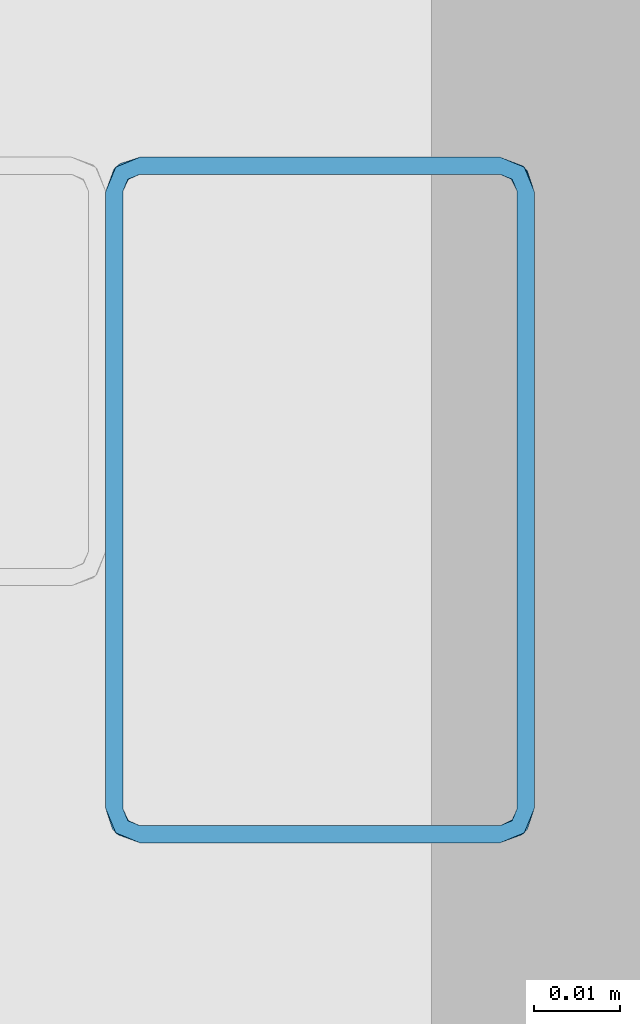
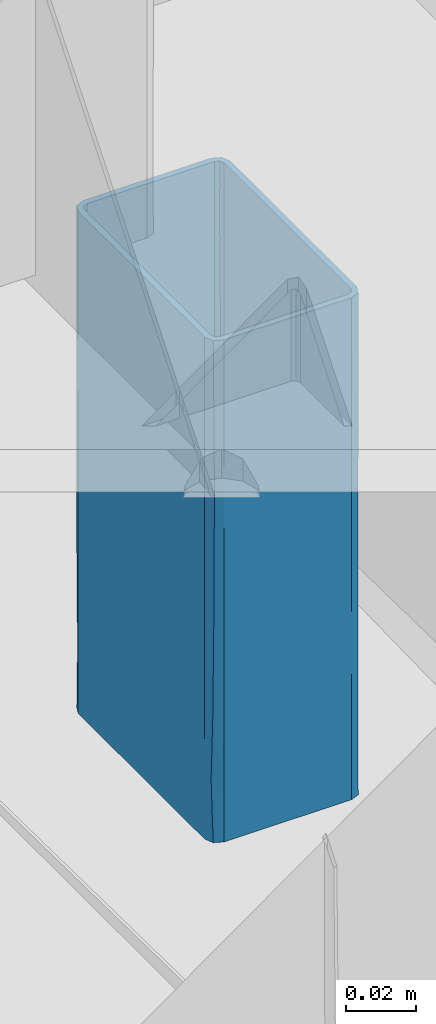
# One storey, part 137 of 186: 1 beam.
"""IFC4X3_ADD2 building model written with IfcOpenShell, lengths in millimetres."""

from ifc_helpers import new_model, si_unit, direction, frame, origin_with_axes, place, context, subcontext, project, spatial, polygons, element, save


model = new_model("IFC4X3_ADD2")

# Units and contexts
model_context = context("Model", 3, precision=1e-05, world=origin_with_axes(), true_north=direction((0.0, 1.0)))
body_context = subcontext(model_context, "Body", "Model", "MODEL_VIEW")
ifc_project = project(units=[si_unit("LENGTHUNIT", "METRE", prefix="MILLI"), si_unit("AREAUNIT", "SQUARE_METRE"), si_unit("VOLUMEUNIT", "CUBIC_METRE"), si_unit("PLANEANGLEUNIT", "RADIAN"), si_unit("TIMEUNIT", "SECOND"), si_unit("MASSUNIT", "GRAM")], contexts=[model_context])

# Site, building, storey
site_placement = place(None, origin_with_axes())
site = spatial("IfcSite", under=ifc_project, at=site_placement, Name="Site", CompositionType="ELEMENT")
building_placement = place(site_placement, origin_with_axes())
building = spatial("IfcBuilding", under=site, at=building_placement, Name="IFC Building Story")
storey_placement = place(building_placement, frame((0.0, 0.0, 4370.0), z_axis=(0.0, 0.0, 1.0), x_axis=(1.0, 0.0, 0.0)))
storey = spatial("IfcBuildingStorey", under=building, at=storey_placement, Name="ETAGE 10 (1)", Elevation=4370.0)

# Beam
beam_placement = place(storey_placement, frame((0.0, 0.0, -4370.0), z_axis=(0.0, 0.0, 1.0), x_axis=(1.0, 0.0, 0.0)))
element("IfcBeam", 1, at=beam_placement, inside=storey, Name="PS9", ObjectType="K50*80*2", context=body_context, shape_type="Tessellation", body=[
    polygons([(33393.18769887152, -14300.99999267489, 7529.59861931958), (33391.18769887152, -14300.99999267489, 7529.59861931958), (33393.77348530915, -14302.41420623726, 7529.59861931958), (33391.18769887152, -14228.99999267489, 7529.59861931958), (33393.18769887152, -14228.99999267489, 7529.59861931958), (33393.77348530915, -14227.58577911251, 7529.59861931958), (33392.35927174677, -14226.17156555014, 7529.59861931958), (33395.18769887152, -14224.99999267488, 7529.59861931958), (33395.18769887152, -14226.99999267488, 7529.59861931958), (33437.18769887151, -14226.99999267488, 7529.59861931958), (33437.18769887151, -14224.99999267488, 7529.59861931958), (33438.60191243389, -14227.58577911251, 7529.59861931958), (33440.01612599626, -14226.17156555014, 7529.59861931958), (33441.18769887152, -14228.99999267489, 7529.59861931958), (33439.18769887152, -14228.99999267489, 7529.59861931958), (33439.18769887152, -14300.99999267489, 7529.59861931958), (33441.18769887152, -14300.99999267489, 7529.59861931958), (33438.60191243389, -14302.41420623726, 7529.59861931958), (33440.01612599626, -14303.82841979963, 7529.59861931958), (33437.18769887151, -14304.99999267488, 7529.59861931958), (33437.18769887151, -14302.99999267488, 7529.59861931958), (33395.18769887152, -14304.99999267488, 7529.59861931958), (33395.18769887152, -14302.99999267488, 7529.59861931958), (33392.35927174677, -14303.82841979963, 7529.59861931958), (33439.18769887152, -14300.99999267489, 7355.21861931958), (33441.18769887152, -14300.99999267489, 7355.21861931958), (33438.60191243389, -14302.41420623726, 7355.21861931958), (33441.18769887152, -14228.99999267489, 7355.21861931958), (33439.18769887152, -14228.99999267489, 7355.21861931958), (33438.60191243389, -14227.58577911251, 7355.21861931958), (33440.01612599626, -14226.17156555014, 7355.21861931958), (33437.18769887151, -14224.99999267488, 7355.21861931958), (33437.18769887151, -14226.99999267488, 7355.21861931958), (33395.18769887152, -14226.99999267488, 7355.21861931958), (33395.18769887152, -14224.99999267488, 7355.21861931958), (33393.77348530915, -14227.58577911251, 7355.21861931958), (33392.35927174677, -14226.17156555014, 7355.21861931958), (33391.18769887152, -14228.99999267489, 7355.21861931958), (33393.18769887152, -14228.99999267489, 7355.21861931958), (33393.18769887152, -14300.99999267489, 7355.21861931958), (33391.18769887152, -14300.99999267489, 7355.21861931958), (33393.77348530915, -14302.41420623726, 7355.21861931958), (33392.35927174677, -14303.82841979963, 7355.21861931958), (33395.18769887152, -14304.99999267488, 7355.21861931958), (33395.18769887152, -14302.99999267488, 7355.21861931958), (33437.18769887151, -14304.99999267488, 7355.21861931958), (33437.18769887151, -14302.99999267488, 7355.21861931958), (33440.01612599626, -14303.82841979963, 7355.21861931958), (33391.18769887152, -14228.99999267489, 7512.14009673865), (33391.18769887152, -14228.99999267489, 7486.003617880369), (33391.18769887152, -14228.99999267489, 7464.206120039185), (33391.18769887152, -14228.99999267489, 7442.408619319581), (33391.18769887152, -14228.99999267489, 7420.611118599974), (33391.18769887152, -14228.99999267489, 7398.813620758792), (33391.18769887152, -14228.99999267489, 7372.677141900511), (33391.18769887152, -14300.99999267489, 7390.135664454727), (33391.18769887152, -14300.99999267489, 7407.491574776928), (33391.18769887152, -14300.99999267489, 7433.628051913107), (33391.18769887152, -14300.99999267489, 7459.764529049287), (33391.18769887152, -14300.99999267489, 7477.223052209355), (33391.18769887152, -14300.99999267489, 7494.681574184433), (33392.27682427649, -14303.74349574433, 7398.813621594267), (33395.18769887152, -14304.99999267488, 7420.611119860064), (33392.48911275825, -14303.95255647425, 7431.509871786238), (33395.18769887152, -14304.99999267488, 7372.677140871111), (33391.94732121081, -14303.34519045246, 7376.936876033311), (33392.53256876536, -14303.99169522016, 7499.071858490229), (33395.18769887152, -14304.99999267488, 7442.408619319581), (33395.18769887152, -14304.99999267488, 7512.14009776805), (33392.55784567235, -14304.01393895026, 7456.068339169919), (33395.18769887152, -14304.99999267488, 7398.813618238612), (33392.62462266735, -14304.07092744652, 7477.57424630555), (33395.18769887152, -14304.99999267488, 7486.00362040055), (33395.18769887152, -14304.99999267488, 7464.206118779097), (33437.18769887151, -14304.99999267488, 7372.677142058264), (33437.18769887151, -14304.99999267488, 7398.813619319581), (33437.18769887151, -14304.99999267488, 7420.611119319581), (33437.18769887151, -14304.99999267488, 7442.408619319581), (33437.18769887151, -14304.99999267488, 7464.20611931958), (33437.18769887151, -14304.99999267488, 7486.00361931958), (33437.18769887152, -14304.99999267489, 7512.140096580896), (33441.18769887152, -14300.99999267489, 7390.135665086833), (33439.84282889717, -14303.9916952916, 7385.745384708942), (33440.09857345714, -14303.7434957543, 7486.00362096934), (33439.88628500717, -14303.95255645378, 7453.307371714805), (33441.18769887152, -14300.99999267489, 7477.325664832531), (33441.18769887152, -14300.99999267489, 7494.681573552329), (33440.42807649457, -14303.34519050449, 7507.880364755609), (33439.81755215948, -14304.01393887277, 7428.748906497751), (33441.18769887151, -14300.99999267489, 7425.052710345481), (33441.18769887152, -14300.99999267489, 7451.189187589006), (33439.7507753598, -14304.07092720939, 7407.242998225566), (33441.18769887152, -14300.99999267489, 7407.594187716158), (33441.18769887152, -14228.99999267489, 7390.135664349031), (33441.18769887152, -14228.99999267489, 7416.272141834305), (33441.18769887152, -14228.99999267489, 7442.408619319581), (33441.18769887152, -14228.99999267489, 7464.206119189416), (33441.18769887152, -14228.99999267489, 7486.003619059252), (33441.18769887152, -14228.99999267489, 7512.140096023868), (33440.17940139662, -14226.344862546, 7499.071859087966), (33440.03562467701, -14226.19119958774, 7472.548605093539), (33437.18769887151, -14224.99999267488, 7494.681574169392), (33440.0161261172, -14226.17156567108, 7398.813623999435), (33440.41784628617, -14226.64072421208, 7377.016122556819), (33439.8417820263, -14226.00736128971, 7446.696292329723), (33439.91410073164, -14226.07309450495, 7422.749377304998), (33437.18769887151, -14224.99999267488, 7433.628050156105), (33437.18769887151, -14224.99999267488, 7390.135664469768), (33437.18769887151, -14224.99999267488, 7407.4915727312), (33437.18769887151, -14224.99999267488, 7459.764527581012), (33395.18769887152, -14224.99999267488, 7390.135665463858), (33395.18769887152, -14224.99999267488, 7407.491574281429), (33395.18769887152, -14224.99999267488, 7433.628051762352), (33395.18769887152, -14224.99999267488, 7459.764529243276), (33395.18769887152, -14224.99999267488, 7477.223051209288), (33395.18769887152, -14224.99999267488, 7494.681574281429), (33392.44419583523, -14226.08911804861, 7398.813622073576), (33392.2351350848, -14226.30140654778, 7431.509872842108), (33392.84250110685, -14225.75961500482, 7376.93687648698), (33392.19599633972, -14226.34486255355, 7499.071858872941), (33392.17375261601, -14226.37013945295, 7456.068339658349), (33392.11676412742, -14226.43691643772, 7477.574246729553), (33395.18769887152, -14226.99999267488, 7480.218460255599), (33393.77348535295, -14227.5857790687, 7486.390980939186), (33393.77348534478, -14227.58577907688, 7473.185613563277), (33393.761337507, -14227.5980321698, 7386.677759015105), (33393.69169343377, -14227.67260134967, 7373.73618015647), (33395.18769887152, -14226.99999267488, 7374.123539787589), (33393.18769887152, -14228.99999267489, 7420.611119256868), (33393.18769887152, -14228.99999267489, 7409.712369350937), (33393.73129899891, -14227.62926315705, 7415.161746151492), (33393.75107338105, -14227.6085519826, 7449.355862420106), (33393.18769887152, -14228.99999267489, 7442.408619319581), (33393.90134918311, -14227.46855397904, 7438.435819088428), (33395.18769887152, -14226.99999267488, 7455.528380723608), (33393.84725054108, -14227.51567523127, 7461.21910020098), (33395.18769887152, -14226.99999267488, 7393.028460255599), (33393.18769887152, -14228.99999267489, 7367.563659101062), (33393.18769887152, -14228.99999267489, 7517.253579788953), (33393.18769887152, -14228.99999267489, 7492.56350022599), (33393.18769887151, -14228.99999267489, 7480.218460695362), (33395.18769887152, -14226.99999267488, 7492.563500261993), (33393.82148151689, -14227.53935920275, 7498.73602044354), (33393.84133664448, -14227.5210373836, 7398.499702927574), (33393.18769887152, -14228.99999267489, 7398.813619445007), (33395.18769887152, -14226.99999267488, 7517.253579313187), (33393.77348533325, -14227.5857790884, 7511.081059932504), (33395.18769887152, -14226.99999267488, 7504.908539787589), (33393.18769887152, -14228.99999267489, 7504.908540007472), (33393.18769887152, -14228.99999267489, 7379.908698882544), (33393.18769887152, -14228.99999267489, 7461.313540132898), (33395.18769887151, -14226.99999267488, 7467.873420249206), (33395.18769887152, -14226.99999267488, 7411.933380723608), (33395.18769887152, -14226.99999267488, 7430.838301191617), (33393.68995856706, -14227.67455916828, 7427.620743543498), (33393.18769887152, -14228.99999267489, 7431.50986941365), (33395.18769887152, -14226.99999267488, 7443.183341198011), (33437.18769887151, -14226.99999267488, 7367.56365934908), (33437.18769887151, -14226.99999267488, 7377.016119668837), (33437.18769887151, -14226.99999267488, 7387.91486956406), (33437.18769887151, -14226.99999267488, 7398.813619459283), (33437.18769887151, -14226.99999267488, 7409.712369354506), (33437.18769887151, -14226.99999267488, 7420.611119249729), (33437.18769887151, -14226.99999267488, 7431.509869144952), (33437.18769887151, -14226.99999267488, 7442.408619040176), (33437.18769887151, -14226.99999267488, 7453.307368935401), (33437.18769887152, -14226.99999267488, 7464.206118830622), (33437.18769887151, -14226.99999267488, 7475.104868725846), (33437.18769887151, -14226.99999267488, 7486.003619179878), (33437.18769887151, -14226.99999267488, 7504.90853981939), (33437.18769887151, -14226.99999267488, 7517.25357984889), (33438.49895586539, -14227.48982543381, 7405.576373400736), (33438.53725077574, -14227.52394739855, 7393.364245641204), (33438.57794189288, -14227.56220814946, 7448.655924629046), (33438.68967101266, -14227.67935658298, 7461.088047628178), (33438.4073444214, -14227.41491705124, 7382.780985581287), (33439.18769887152, -14228.99999267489, 7510.693698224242), (33438.51509022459, -14227.50398726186, 7511.081060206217), (33439.18769887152, -14228.99999267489, 7367.563658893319), (33439.18769887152, -14228.99999267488, 7404.598778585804), (33439.18769887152, -14228.99999267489, 7392.253739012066), (33438.67085384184, -14227.658258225, 7423.116339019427), (33439.18769887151, -14228.99999267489, 7379.908698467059), (33438.60191241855, -14227.58577909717, 7372.289889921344), (33438.5896593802, -14227.5736313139, 7498.139482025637), (33438.61448330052, -14227.5984627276, 7436.065234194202), (33439.18769887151, -14228.99999267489, 7429.288858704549), (33439.18769887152, -14228.99999267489, 7416.943818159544), (33439.18769887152, -14228.99999267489, 7441.633898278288), (33439.18769887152, -14228.99999267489, 7491.788778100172), (33438.66517873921, -14227.65201150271, 7480.554245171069), (33439.18769887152, -14228.99999267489, 7472.8838579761), (33439.18769887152, -14228.99999267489, 7453.978937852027), (33439.18769887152, -14300.99999267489, 7367.563658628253), (33439.18769887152, -14300.99999267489, 7377.016119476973), (33439.18769887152, -14300.99999267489, 7387.9148689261), (33439.18769887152, -14300.99999267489, 7398.813618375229), (33439.18769887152, -14300.99999267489, 7409.712369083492), (33439.18769887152, -14300.99999267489, 7420.61111853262), (33439.18769887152, -14300.99999267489, 7431.509867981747), (33439.18769887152, -14300.99999267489, 7442.408618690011), (33439.18769887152, -14300.99999267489, 7453.307369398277), (33439.18769887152, -14300.99999267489, 7464.206118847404), (33439.18769887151, -14300.99999267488, 7475.104868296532), (33439.18769887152, -14300.99999267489, 7486.003619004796), (33439.18769887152, -14300.99999267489, 7504.908540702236), (33439.18769887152, -14300.99999267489, 7517.253580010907), (33438.69786612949, -14302.3112496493, 7405.576373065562), (33438.66374415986, -14302.34954456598, 7393.364245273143), (33438.62548341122, -14302.39023568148, 7448.65592429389), (33438.50833497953, -14302.50196480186, 7461.088047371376), (33438.77277449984, -14302.21963821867, 7382.780985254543), (33437.18769887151, -14302.99999267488, 7510.693698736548), (33438.68370428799, -14302.32738402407, 7511.081060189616), (33437.18769887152, -14302.99999267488, 7367.563659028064), (33437.18769887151, -14302.99999267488, 7404.598778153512), (33437.18769887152, -14302.99999267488, 7392.25373844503), (33438.52943334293, -14302.48314762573, 7423.116338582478), (33438.60191244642, -14302.41420622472, 7372.289889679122), (33438.61406023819, -14302.40195317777, 7498.139481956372), (33438.58922884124, -14302.42677708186, 7436.065233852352), (33437.18769887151, -14302.99999267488, 7379.908698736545), (33437.18769887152, -14302.99999267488, 7429.288857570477), (33437.18769887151, -14302.99999267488, 7416.943817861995), (33437.18769887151, -14302.99999267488, 7441.633897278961), (33437.18769887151, -14302.99999267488, 7491.788778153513), (33438.53568005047, -14302.4774725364, 7480.554245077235), (33437.18769887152, -14302.99999267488, 7472.883857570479), (33437.18769887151, -14302.99999267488, 7453.978936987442), (33395.18769887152, -14302.99999267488, 7367.563659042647), (33395.18769887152, -14302.99999267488, 7379.908698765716), (33395.18769887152, -14302.99999267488, 7392.253738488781), (33395.18769887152, -14302.99999267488, 7404.598778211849), (33395.18769887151, -14302.99999267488, 7416.943817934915), (33395.18769887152, -14302.99999267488, 7429.288857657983), (33395.18769887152, -14302.99999267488, 7441.633897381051), (33395.18769887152, -14302.99999267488, 7453.978937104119), (33395.18769887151, -14302.99999267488, 7472.883857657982), (33395.18769887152, -14302.99999267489, 7491.788778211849), (33395.18769887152, -14302.99999267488, 7510.693698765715), (33393.76133749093, -14302.40195316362, 7498.139482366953), (33393.69169344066, -14302.32738400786, 7511.081060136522), (33393.84725044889, -14302.48431003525, 7423.598142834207), (33393.75107328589, -14302.39143326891, 7435.461379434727), (33393.77348535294, -14302.41420628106, 7373.736182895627), (33393.77348537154, -14302.41420629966, 7386.941548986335), (33393.18769887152, -14300.99999267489, 7379.908699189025), (33393.18769887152, -14300.99999267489, 7464.20611964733), (33393.18769887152, -14300.99999267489, 7475.104869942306), (33393.73129892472, -14302.3707221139, 7469.655496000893), (33393.18769887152, -14300.99999267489, 7517.253579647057), (33393.18769887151, -14300.99999267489, 7367.563659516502), (33393.90134900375, -14302.53143122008, 7446.381423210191), (33393.84133657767, -14302.47894790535, 7486.317539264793), (33393.18769887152, -14300.99999267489, 7486.003619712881), (33393.18769887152, -14300.99999267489, 7392.253738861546), (33393.7103880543, -14302.34815911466, 7398.896110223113), (33393.18769887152, -14300.99999267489, 7504.908539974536), (33393.76900637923, -14302.40971307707, 7410.853040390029), (33393.68995852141, -14302.32542612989, 7457.196499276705), (33393.18769887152, -14300.99999267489, 7453.307369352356), (33393.18769887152, -14300.99999267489, 7442.40861958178), (33393.18769887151, -14300.99999267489, 7423.503699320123), (33393.18769887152, -14300.99999267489, 7404.598779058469)], [[[1, 2, 3]], [[2, 1, 4]], [[5, 4, 1]], [[6, 4, 5]], [[7, 4, 6]], [[6, 8, 7]], [[6, 9, 8]], [[8, 9, 10]], [[10, 11, 8]], [[10, 12, 11]], [[11, 12, 13]], [[14, 13, 12]], [[14, 12, 15]], [[14, 15, 16]], [[16, 17, 14]], [[18, 17, 16]], [[17, 18, 19]], [[18, 20, 19]], [[21, 20, 18]], [[20, 21, 22]], [[23, 22, 21]], [[3, 22, 23]], [[22, 3, 24]], [[3, 2, 24]], [[25, 26, 27]], [[26, 25, 28]], [[29, 28, 25]], [[30, 28, 29]], [[31, 28, 30]], [[30, 32, 31]], [[30, 33, 32]], [[32, 33, 34]], [[34, 35, 32]], [[34, 36, 35]], [[35, 36, 37]], [[38, 37, 36]], [[38, 36, 39]], [[38, 39, 40]], [[40, 41, 38]], [[42, 41, 40]], [[41, 42, 43]], [[42, 44, 43]], [[45, 44, 42]], [[44, 45, 46]], [[47, 46, 45]], [[27, 46, 47]], [[46, 27, 48]], [[27, 26, 48]], [[55, 38, 41]], [[55, 41, 56]], [[56, 57, 54]], [[56, 54, 55]], [[57, 58, 53]], [[57, 53, 54]], [[58, 52, 53]], [[58, 59, 51]], [[58, 51, 52]], [[60, 61, 50]], [[50, 51, 59]], [[50, 59, 60]], [[61, 49, 50]], [[61, 2, 4]], [[61, 4, 49]], [[62, 63, 64]], [[65, 62, 66]], [[2, 61, 67]], [[64, 63, 68]], [[69, 22, 24]], [[43, 44, 65]], [[62, 56, 66]], [[70, 59, 58]], [[57, 56, 62]], [[71, 63, 62, 65]], [[24, 2, 67]], [[59, 72, 61, 60]], [[41, 43, 66]], [[58, 64, 70]], [[64, 57, 62]], [[73, 69, 67]], [[64, 68, 70]], [[64, 58, 57]], [[70, 68, 74]], [[73, 67, 72]], [[41, 66, 56]], [[65, 66, 43]], [[24, 67, 69]], [[72, 59, 70]], [[72, 67, 61]], [[72, 74, 73]], [[74, 72, 70]], [[65, 44, 46]], [[65, 46, 75]], [[75, 76, 71]], [[75, 71, 65]], [[76, 77, 63]], [[76, 63, 71]], [[77, 78, 68]], [[77, 68, 63]], [[78, 79, 74]], [[78, 74, 68]], [[79, 80, 73]], [[79, 73, 74]], [[80, 81, 69]], [[80, 69, 73]], [[81, 20, 22]], [[81, 22, 69]], [[26, 82, 83]], [[80, 79, 84, 81]], [[85, 84, 79]], [[86, 87, 84]], [[85, 79, 78]], [[81, 84, 88]], [[84, 87, 88]], [[48, 26, 83]], [[89, 90, 91]], [[90, 92, 82, 93]], [[17, 19, 88]], [[91, 85, 89]], [[75, 83, 76]], [[85, 86, 84]], [[75, 46, 48]], [[19, 20, 81]], [[85, 78, 89]], [[85, 91, 86]], [[89, 78, 77]], [[76, 83, 92]], [[17, 88, 87]], [[81, 88, 19]], [[48, 83, 75]], [[92, 90, 89]], [[92, 83, 82]], [[92, 77, 76]], [[77, 92, 89]], [[82, 26, 28]], [[82, 28, 94]], [[94, 95, 93]], [[94, 93, 82]], [[95, 90, 93]], [[95, 96, 91]], [[95, 91, 90]], [[97, 98, 86]], [[97, 86, 91]], [[91, 96, 97]], [[98, 87, 86]], [[99, 14, 17]], [[99, 17, 87]], [[87, 98, 99]], [[99, 98, 100]], [[101, 102, 100]], [[103, 94, 104]], [[11, 13, 100]], [[31, 104, 28]], [[105, 106, 107]], [[108, 109, 103]], [[97, 105, 101]], [[13, 99, 100]], [[32, 108, 104]], [[101, 105, 110]], [[103, 104, 108]], [[106, 109, 107]], [[13, 14, 99]], [[110, 105, 107]], [[95, 103, 106]], [[95, 94, 103]], [[106, 96, 95]], [[102, 101, 110]], [[97, 96, 105]], [[106, 105, 96]], [[109, 106, 103]], [[101, 100, 98]], [[100, 102, 11]], [[28, 104, 94]], [[104, 31, 32]], [[101, 98, 97]], [[108, 32, 35]], [[108, 35, 111]], [[111, 112, 109]], [[111, 109, 108]], [[112, 113, 107]], [[112, 107, 109]], [[113, 114, 110]], [[113, 110, 107]], [[115, 116, 102]], [[102, 110, 114]], [[102, 114, 115]], [[116, 8, 11]], [[116, 11, 102]], [[117, 53, 118]], [[55, 117, 119]], [[8, 116, 120]], [[118, 53, 52]], [[49, 4, 7]], [[37, 38, 55]], [[117, 111, 119]], [[121, 114, 113]], [[112, 111, 117]], [[54, 53, 117, 55]], [[7, 8, 120]], [[114, 122, 116, 115]], [[35, 37, 119]], [[113, 118, 121]], [[118, 112, 117]], [[50, 49, 120]], [[118, 52, 121]], [[118, 113, 112]], [[121, 52, 51]], [[50, 120, 122]], [[35, 119, 111]], [[55, 119, 37]], [[7, 120, 49]], [[122, 114, 121]], [[122, 120, 116]], [[122, 51, 50]], [[51, 122, 121]], [[123, 124, 125]], [[126, 127, 128]], [[129, 130, 131]], [[132, 133, 134]], [[132, 135, 136]], [[126, 128, 137]], [[138, 39, 36]], [[6, 5, 139]], [[36, 127, 138]], [[125, 124, 140, 141]], [[142, 143, 124]], [[144, 145, 126]], [[142, 124, 123]], [[146, 147, 148]], [[140, 143, 149]], [[36, 34, 128]], [[146, 9, 6]], [[138, 127, 150]], [[147, 6, 139]], [[6, 147, 146]], [[143, 147, 149]], [[143, 142, 148]], [[149, 147, 139]], [[132, 151, 133]], [[152, 123, 125]], [[125, 141, 151]], [[126, 150, 127]], [[128, 127, 36]], [[126, 145, 150]], [[131, 153, 154]], [[124, 143, 140]], [[147, 143, 148]], [[130, 145, 144]], [[135, 152, 136]], [[144, 126, 137]], [[155, 131, 154]], [[144, 137, 153]], [[155, 129, 131]], [[144, 131, 130]], [[153, 131, 144]], [[156, 129, 155]], [[132, 134, 157]], [[135, 132, 157]], [[154, 134, 155]], [[151, 132, 136]], [[136, 125, 151]], [[125, 136, 152]], [[157, 134, 154]], [[133, 156, 134]], [[156, 155, 134]], [[158, 159, 128]], [[128, 34, 33]], [[128, 33, 158]], [[159, 160, 137]], [[159, 137, 128]], [[161, 162, 153]], [[161, 153, 137]], [[137, 160, 161]], [[163, 164, 154]], [[163, 154, 153]], [[153, 162, 163]], [[164, 165, 157]], [[164, 157, 154]], [[165, 166, 135]], [[165, 135, 157]], [[166, 167, 152]], [[166, 152, 135]], [[167, 168, 123]], [[167, 123, 152]], [[168, 169, 142]], [[168, 142, 123]], [[169, 170, 148]], [[169, 148, 142]], [[170, 171, 146]], [[170, 146, 148]], [[171, 10, 9]], [[171, 9, 146]], [[172, 161, 173]], [[166, 174, 175]], [[160, 159, 176]], [[177, 12, 178]], [[15, 12, 177]], [[30, 29, 179]], [[180, 173, 181]], [[172, 182, 162]], [[179, 183, 184]], [[170, 185, 178]], [[165, 186, 174]], [[170, 178, 171]], [[184, 159, 158]], [[158, 33, 30]], [[12, 10, 171]], [[178, 185, 177]], [[184, 183, 176]], [[30, 184, 158]], [[179, 184, 30]], [[160, 176, 173]], [[160, 173, 161]], [[180, 172, 173]], [[183, 181, 176]], [[187, 186, 182]], [[163, 162, 182, 164]], [[188, 182, 172]], [[187, 182, 188]], [[172, 180, 188]], [[186, 164, 182]], [[181, 173, 176]], [[186, 189, 174]], [[171, 178, 12]], [[190, 177, 185]], [[190, 185, 191]], [[185, 170, 169]], [[167, 166, 175, 168]], [[168, 191, 169]], [[191, 175, 192]], [[175, 174, 193]], [[175, 193, 192]], [[175, 191, 168]], [[169, 191, 185]], [[191, 192, 190]], [[193, 174, 189]], [[186, 187, 189]], [[184, 176, 159]], [[162, 161, 172]], [[166, 165, 174]], [[186, 165, 164]], [[179, 29, 25]], [[179, 25, 194]], [[194, 195, 183]], [[194, 183, 179]], [[195, 196, 181]], [[195, 181, 183]], [[197, 198, 180]], [[180, 181, 196]], [[180, 196, 197]], [[198, 199, 188]], [[198, 188, 180]], [[199, 200, 187]], [[199, 187, 188]], [[200, 201, 189]], [[200, 189, 187]], [[201, 202, 193]], [[201, 193, 189]], [[203, 204, 192]], [[192, 193, 202]], [[192, 202, 203]], [[204, 205, 190]], [[204, 190, 192]], [[205, 206, 177]], [[205, 177, 190]], [[207, 16, 15]], [[207, 15, 177]], [[177, 206, 207]], [[208, 197, 209]], [[202, 210, 211]], [[196, 195, 212]], [[213, 18, 214]], [[21, 18, 213]], [[27, 47, 215]], [[216, 209, 217]], [[208, 218, 198]], [[27, 215, 219]], [[206, 220, 214]], [[201, 221, 210]], [[222, 212, 219]], [[206, 214, 207]], [[194, 27, 219, 195]], [[194, 25, 27]], [[18, 16, 207]], [[214, 220, 213]], [[219, 215, 222]], [[196, 212, 209]], [[196, 209, 197]], [[216, 208, 209]], [[222, 217, 212]], [[223, 221, 218]], [[199, 198, 218, 200]], [[224, 218, 208]], [[223, 218, 224]], [[208, 216, 224]], [[221, 200, 218]], [[217, 209, 212]], [[221, 225, 210]], [[207, 214, 18]], [[226, 213, 220]], [[226, 220, 227]], [[220, 206, 205]], [[203, 202, 211, 204]], [[204, 227, 205]], [[227, 211, 228]], [[211, 210, 229]], [[211, 229, 228]], [[211, 227, 204]], [[205, 227, 220]], [[227, 228, 226]], [[229, 210, 225]], [[221, 223, 225]], [[219, 212, 195]], [[198, 197, 208]], [[202, 201, 210]], [[221, 201, 200]], [[215, 47, 45]], [[215, 45, 230]], [[230, 231, 222]], [[230, 222, 215]], [[231, 232, 217]], [[231, 217, 222]], [[232, 233, 216]], [[232, 216, 217]], [[233, 234, 224]], [[233, 224, 216]], [[234, 235, 223]], [[234, 223, 224]], [[235, 236, 225]], [[235, 225, 223]], [[236, 237, 229]], [[236, 229, 225]], [[237, 238, 228]], [[237, 228, 229]], [[238, 239, 226]], [[238, 226, 228]], [[239, 240, 213]], [[239, 213, 226]], [[240, 23, 21]], [[240, 21, 213]], [[241, 242, 240]], [[243, 244, 235]], [[231, 230, 245]], [[246, 245, 247]], [[235, 244, 236]], [[248, 249, 250]], [[251, 1, 3]], [[40, 252, 42]], [[240, 239, 241]], [[253, 236, 244]], [[3, 242, 251]], [[254, 255, 241]], [[246, 256, 257]], [[42, 245, 230]], [[3, 23, 240]], [[230, 45, 42]], [[251, 242, 258]], [[252, 247, 245]], [[42, 252, 245]], [[231, 245, 246]], [[232, 231, 246]], [[257, 259, 233]], [[241, 258, 242]], [[240, 242, 3]], [[241, 255, 258]], [[250, 238, 237]], [[249, 255, 254]], [[233, 232, 257]], [[246, 247, 256]], [[254, 241, 239]], [[260, 250, 237]], [[254, 239, 238]], [[260, 248, 250]], [[254, 250, 249]], [[238, 250, 254]], [[261, 248, 260]], [[262, 253, 244]], [[244, 263, 262]], [[237, 253, 260]], [[243, 259, 263]], [[263, 244, 243]], [[264, 263, 259]], [[243, 234, 259]], [[234, 233, 259]], [[243, 235, 234]], [[257, 264, 259]], [[264, 257, 256]], [[232, 246, 257]], [[236, 253, 237]], [[262, 261, 253]], [[261, 260, 253]], [[252, 40, 39]], [[252, 39, 138]], [[138, 150, 247]], [[138, 247, 252]], [[150, 145, 256]], [[150, 256, 247]], [[145, 130, 264]], [[145, 264, 256]], [[130, 129, 263]], [[130, 263, 264]], [[156, 133, 262]], [[156, 262, 263]], [[263, 129, 156]], [[133, 151, 261]], [[133, 261, 262]], [[151, 248, 261]], [[151, 141, 249]], [[151, 249, 248]], [[141, 255, 249]], [[140, 149, 258]], [[140, 258, 255]], [[255, 141, 140]], [[149, 139, 251]], [[149, 251, 258]], [[139, 5, 1]], [[139, 1, 251]]]),
])

save(model, "model.ifc")
